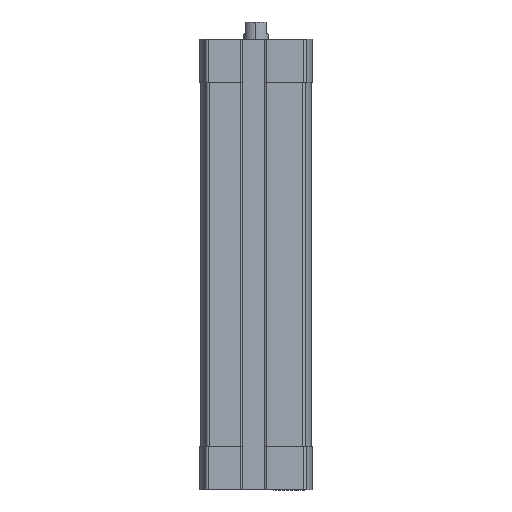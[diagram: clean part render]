
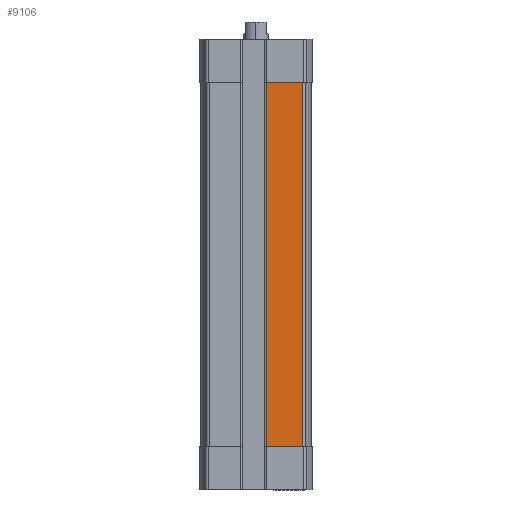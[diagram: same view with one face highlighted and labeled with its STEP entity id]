
A CAD part, left-side view. The second image highlights one B-rep face of the part: STEP entity #9106.
In plain terms, the highlighted planar face has unit normal (-1, 0, 0).
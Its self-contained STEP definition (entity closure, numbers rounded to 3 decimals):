
#790 = CARTESIAN_POINT ( 'NONE',  ( -13.5, -2.5, -99.5 ) ) ;
#1164 = EDGE_CURVE ( 'NONE', #9384, #5318, #10827, .T. ) ;
#1350 = VECTOR ( 'NONE', #7567, 1000. ) ;
#1522 = DIRECTION ( 'NONE',  ( 0., 0., 1. ) ) ;
#1725 = DIRECTION ( 'NONE',  ( 0., 0., 1. ) ) ;
#1847 = CARTESIAN_POINT ( 'NONE',  ( -13.5, 0., -10.5 ) ) ;
#2571 = CARTESIAN_POINT ( 'NONE',  ( -13.5, -11.329, -99.5 ) ) ;
#2665 = VECTOR ( 'NONE', #10726, 1000. ) ;
#2787 = VERTEX_POINT ( 'NONE', #9671 ) ;
#3336 = CARTESIAN_POINT ( 'NONE',  ( -13.5, -11.329, -99.5 ) ) ;
#3520 = EDGE_LOOP ( 'NONE', ( #11359, #5797, #8052, #5899 ) ) ;
#4913 = CARTESIAN_POINT ( 'NONE',  ( -13.5, -2.5, -99.5 ) ) ;
#5318 = VERTEX_POINT ( 'NONE', #5781 ) ;
#5369 = EDGE_CURVE ( 'NONE', #2787, #6902, #6117, .T. ) ;
#5781 = CARTESIAN_POINT ( 'NONE',  ( -13.5, -11.329, -10.5 ) ) ;
#5797 = ORIENTED_EDGE ( 'NONE', *, *, #1164, .T. ) ;
#5899 = ORIENTED_EDGE ( 'NONE', *, *, #5369, .T. ) ;
#6117 = LINE ( 'NONE', #4913, #1350 ) ;
#6554 = AXIS2_PLACEMENT_3D ( 'NONE', #11493, #8824, #1725 ) ;
#6902 = VERTEX_POINT ( 'NONE', #9550 ) ;
#7103 = PLANE ( 'NONE',  #6554 ) ;
#7567 = DIRECTION ( 'NONE',  ( 0., 0., -1. ) ) ;
#8052 = ORIENTED_EDGE ( 'NONE', *, *, #9200, .T. ) ;
#8824 = DIRECTION ( 'NONE',  ( -1., 0., 0. ) ) ;
#9056 = LINE ( 'NONE', #790, #10844 ) ;
#9106 = ADVANCED_FACE ( 'NONE', ( #10874 ), #7103, .T. ) ;
#9200 = EDGE_CURVE ( 'NONE', #5318, #2787, #9786, .T. ) ;
#9384 = VERTEX_POINT ( 'NONE', #2571 ) ;
#9550 = CARTESIAN_POINT ( 'NONE',  ( -13.5, -2.5, -99.5 ) ) ;
#9671 = CARTESIAN_POINT ( 'NONE',  ( -13.5, -2.5, -10.5 ) ) ;
#9684 = DIRECTION ( 'NONE',  ( 0., -1., 0. ) ) ;
#9786 = LINE ( 'NONE', #1847, #2665 ) ;
#10548 = VECTOR ( 'NONE', #1522, 1000. ) ;
#10587 = EDGE_CURVE ( 'NONE', #6902, #9384, #9056, .T. ) ;
#10726 = DIRECTION ( 'NONE',  ( 0., 1., 0. ) ) ;
#10827 = LINE ( 'NONE', #3336, #10548 ) ;
#10844 = VECTOR ( 'NONE', #9684, 1000. ) ;
#10874 = FACE_OUTER_BOUND ( 'NONE', #3520, .T. ) ;
#11359 = ORIENTED_EDGE ( 'NONE', *, *, #10587, .T. ) ;
#11493 = CARTESIAN_POINT ( 'NONE',  ( -13.5, -2.5, -99.5 ) ) ;
